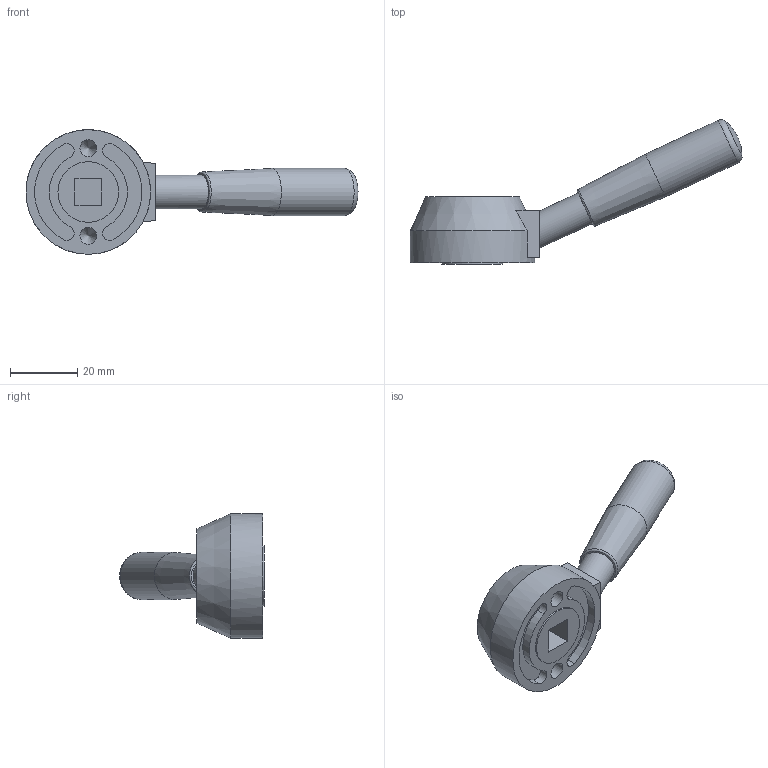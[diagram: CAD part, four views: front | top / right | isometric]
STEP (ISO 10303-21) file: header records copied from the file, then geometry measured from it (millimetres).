
FILE_DESCRIPTION( ( 'STEP AP203' ), '1' );
FILE_NAME( 'C:/Temp/Ganter_Step_05_03_2020/data/2_1/gn_512/gn_512_v/Control lever GN 512-37-V8.stp', '2020-03-05T11:51:42', ( 'License CC BY-ND 4.0' ), ( 'CADENAS' ), ' ', 'PARTsolutions', ' ' );
FILE_SCHEMA( ( 'CONFIG_CONTROL_DESIGN' ) );
Length unit declared in the file: millimetre
Products named in the file (1): _Control lever GN 512-37-V8
Bounding box: 98.59 x 42.95 x 37 mm (x, y, z)
Volume: 25078.5 mm3; surface area: 8150.8 mm2
Topology: 1 solids, 1 shells, 39 faces, 88 edges, 57 vertices
Faces by surface type: plane 17, cylinder 15, cone 4, torus 2, sphere 1
Full cylindrical faces by diameter (mm): 5 x2, 10 x1, 14 x1, 18 x1, 21 x1, 37 x1
Entity records: 1032 total; most frequent: DIRECTION 182, CARTESIAN_POINT 168, ORIENTED_EDGE 136, AXIS2_PLACEMENT_3D 76, EDGE_CURVE 68, EDGE_LOOP 59, VERTEX_POINT 54, FACE_OUTER_BOUND 48
